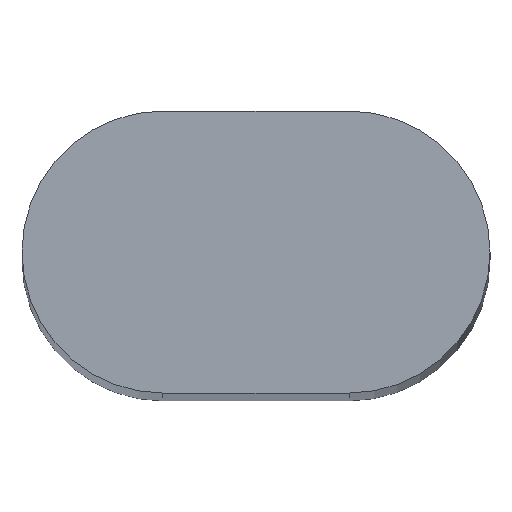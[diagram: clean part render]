
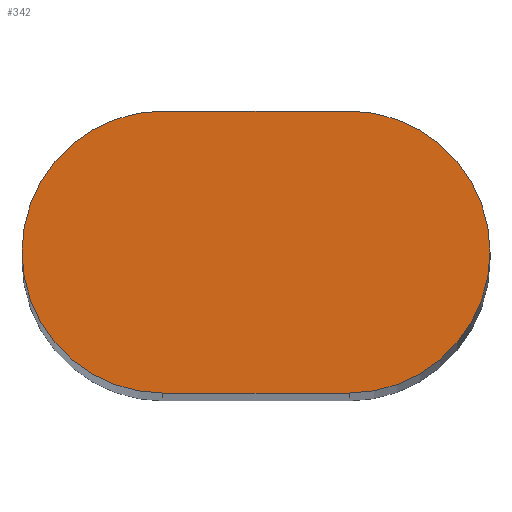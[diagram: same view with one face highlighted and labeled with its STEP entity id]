
A CAD part, top view. The second image highlights one B-rep face of the part: STEP entity #342.
In plain terms, the highlighted planar face has unit normal (0, 0, 1).
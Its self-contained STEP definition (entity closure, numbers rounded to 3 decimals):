
#24 = VERTEX_POINT('',#25);
#25 = CARTESIAN_POINT('',(-6.48,9.82,314.2));
#32 = PLANE('',#33);
#33 = AXIS2_PLACEMENT_3D('',#34,#35,#36);
#34 = CARTESIAN_POINT('',(-6.48,9.82,0.));
#35 = DIRECTION('',(0.,1.,0.));
#36 = DIRECTION('',(1.,0.,0.));
#44 = CYLINDRICAL_SURFACE('',#45,9.82);
#45 = AXIS2_PLACEMENT_3D('',#46,#47,#48);
#46 = CARTESIAN_POINT('',(-6.48,0.,0.));
#47 = DIRECTION('',(-0.,0.,-1.));
#48 = DIRECTION('',(0.,-1.,0.));
#56 = EDGE_CURVE('',#24,#57,#59,.T.);
#57 = VERTEX_POINT('',#58);
#58 = CARTESIAN_POINT('',(6.48,9.82,314.2));
#59 = SURFACE_CURVE('',#60,(#64,#71),.PCURVE_S1.);
#60 = LINE('',#61,#62);
#61 = CARTESIAN_POINT('',(-6.48,9.82,314.2));
#62 = VECTOR('',#63,1.);
#63 = DIRECTION('',(1.,0.,0.));
#64 = PCURVE('',#32,#65);
#65 = DEFINITIONAL_REPRESENTATION('',(#66),#70);
#66 = LINE('',#67,#68);
#67 = CARTESIAN_POINT('',(0.,-314.2));
#68 = VECTOR('',#69,1.);
#69 = DIRECTION('',(1.,0.));
#70 = ( GEOMETRIC_REPRESENTATION_CONTEXT(2) 
PARAMETRIC_REPRESENTATION_CONTEXT() REPRESENTATION_CONTEXT('2D SPACE',''
  ) );
#71 = PCURVE('',#72,#77);
#72 = PLANE('',#73);
#73 = AXIS2_PLACEMENT_3D('',#74,#75,#76);
#74 = CARTESIAN_POINT('',(0.,0.,314.2));
#75 = DIRECTION('',(-0.,-0.,-1.));
#76 = DIRECTION('',(-1.,0.,0.));
#77 = DEFINITIONAL_REPRESENTATION('',(#78),#82);
#78 = LINE('',#79,#80);
#79 = CARTESIAN_POINT('',(6.48,9.82));
#80 = VECTOR('',#81,1.);
#81 = DIRECTION('',(-1.,0.));
#82 = ( GEOMETRIC_REPRESENTATION_CONTEXT(2) 
PARAMETRIC_REPRESENTATION_CONTEXT() REPRESENTATION_CONTEXT('2D SPACE',''
  ) );
#100 = CYLINDRICAL_SURFACE('',#101,9.82);
#101 = AXIS2_PLACEMENT_3D('',#102,#103,#104);
#102 = CARTESIAN_POINT('',(6.48,0.,0.));
#103 = DIRECTION('',(0.,0.,-1.));
#104 = DIRECTION('',(0.,1.,0.));
#142 = EDGE_CURVE('',#57,#143,#145,.T.);
#143 = VERTEX_POINT('',#144);
#144 = CARTESIAN_POINT('',(6.48,-9.82,314.2));
#145 = SURFACE_CURVE('',#146,(#151,#158),.PCURVE_S1.);
#146 = CIRCLE('',#147,9.82);
#147 = AXIS2_PLACEMENT_3D('',#148,#149,#150);
#148 = CARTESIAN_POINT('',(6.48,0.,314.2));
#149 = DIRECTION('',(0.,0.,-1.));
#150 = DIRECTION('',(0.,1.,0.));
#151 = PCURVE('',#100,#152);
#152 = DEFINITIONAL_REPRESENTATION('',(#153),#157);
#153 = LINE('',#154,#155);
#154 = CARTESIAN_POINT('',(0.,-314.2));
#155 = VECTOR('',#156,1.);
#156 = DIRECTION('',(1.,0.));
#157 = ( GEOMETRIC_REPRESENTATION_CONTEXT(2) 
PARAMETRIC_REPRESENTATION_CONTEXT() REPRESENTATION_CONTEXT('2D SPACE',''
  ) );
#158 = PCURVE('',#72,#159);
#159 = DEFINITIONAL_REPRESENTATION('',(#160),#164);
#160 = CIRCLE('',#161,9.82);
#161 = AXIS2_PLACEMENT_2D('',#162,#163);
#162 = CARTESIAN_POINT('',(-6.48,0.));
#163 = DIRECTION('',(0.,1.));
#164 = ( GEOMETRIC_REPRESENTATION_CONTEXT(2) 
PARAMETRIC_REPRESENTATION_CONTEXT() REPRESENTATION_CONTEXT('2D SPACE',''
  ) );
#182 = PLANE('',#183);
#183 = AXIS2_PLACEMENT_3D('',#184,#185,#186);
#184 = CARTESIAN_POINT('',(6.48,-9.82,0.));
#185 = DIRECTION('',(0.,-1.,0.));
#186 = DIRECTION('',(-1.,0.,0.));
#220 = EDGE_CURVE('',#143,#221,#223,.T.);
#221 = VERTEX_POINT('',#222);
#222 = CARTESIAN_POINT('',(-6.48,-9.82,314.2));
#223 = SURFACE_CURVE('',#224,(#228,#235),.PCURVE_S1.);
#224 = LINE('',#225,#226);
#225 = CARTESIAN_POINT('',(6.48,-9.82,314.2));
#226 = VECTOR('',#227,1.);
#227 = DIRECTION('',(-1.,0.,0.));
#228 = PCURVE('',#182,#229);
#229 = DEFINITIONAL_REPRESENTATION('',(#230),#234);
#230 = LINE('',#231,#232);
#231 = CARTESIAN_POINT('',(0.,-314.2));
#232 = VECTOR('',#233,1.);
#233 = DIRECTION('',(1.,0.));
#234 = ( GEOMETRIC_REPRESENTATION_CONTEXT(2) 
PARAMETRIC_REPRESENTATION_CONTEXT() REPRESENTATION_CONTEXT('2D SPACE',''
  ) );
#235 = PCURVE('',#72,#236);
#236 = DEFINITIONAL_REPRESENTATION('',(#237),#241);
#237 = LINE('',#238,#239);
#238 = CARTESIAN_POINT('',(-6.48,-9.82));
#239 = VECTOR('',#240,1.);
#240 = DIRECTION('',(1.,0.));
#241 = ( GEOMETRIC_REPRESENTATION_CONTEXT(2) 
PARAMETRIC_REPRESENTATION_CONTEXT() REPRESENTATION_CONTEXT('2D SPACE',''
  ) );
#291 = EDGE_CURVE('',#221,#24,#292,.T.);
#292 = SURFACE_CURVE('',#293,(#298,#305),.PCURVE_S1.);
#293 = CIRCLE('',#294,9.82);
#294 = AXIS2_PLACEMENT_3D('',#295,#296,#297);
#295 = CARTESIAN_POINT('',(-6.48,0.,314.2));
#296 = DIRECTION('',(-0.,0.,-1.));
#297 = DIRECTION('',(0.,-1.,0.));
#298 = PCURVE('',#44,#299);
#299 = DEFINITIONAL_REPRESENTATION('',(#300),#304);
#300 = LINE('',#301,#302);
#301 = CARTESIAN_POINT('',(0.,-314.2));
#302 = VECTOR('',#303,1.);
#303 = DIRECTION('',(1.,0.));
#304 = ( GEOMETRIC_REPRESENTATION_CONTEXT(2) 
PARAMETRIC_REPRESENTATION_CONTEXT() REPRESENTATION_CONTEXT('2D SPACE',''
  ) );
#305 = PCURVE('',#72,#306);
#306 = DEFINITIONAL_REPRESENTATION('',(#307),#311);
#307 = CIRCLE('',#308,9.82);
#308 = AXIS2_PLACEMENT_2D('',#309,#310);
#309 = CARTESIAN_POINT('',(6.48,0.));
#310 = DIRECTION('',(0.,-1.));
#311 = ( GEOMETRIC_REPRESENTATION_CONTEXT(2) 
PARAMETRIC_REPRESENTATION_CONTEXT() REPRESENTATION_CONTEXT('2D SPACE',''
  ) );
#342 = ADVANCED_FACE('',(#343),#72,.F.);
#343 = FACE_BOUND('',#344,.F.);
#344 = EDGE_LOOP('',(#345,#346,#347,#348));
#345 = ORIENTED_EDGE('',*,*,#56,.T.);
#346 = ORIENTED_EDGE('',*,*,#142,.T.);
#347 = ORIENTED_EDGE('',*,*,#220,.T.);
#348 = ORIENTED_EDGE('',*,*,#291,.T.);
